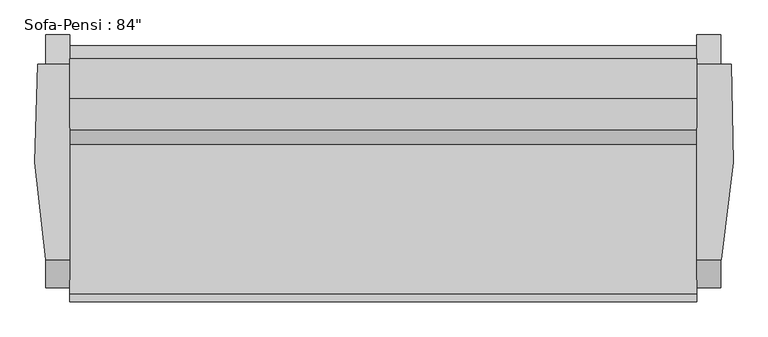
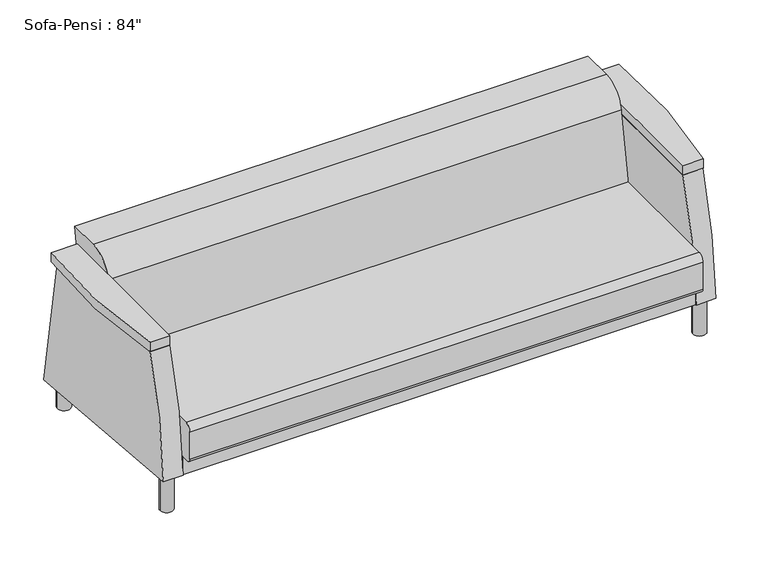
"""IFC4 building model written with IfcOpenShell, lengths in millimetres: furniture geometry."""

from ifc_helpers import new_model, si_unit, point, frame, frame_2d, origin, origin_with_axes, place, context, project, spatial, polyline, circle_curve, trimmed, segment, composite_curve, outline, extrude, source, transform, mapped, element, save


def furniture_fb1f61f5(model_context):
    return source(origin(), model_context, "Body", "SweptSolid", [
        extrude(outline(composite_curve([segment(trimmed(circle_curve(frame_2d((-750.09375, -53.0901639)), 25.4), [point((-775.49375, -53.0901639))], [point((-724.69375, -53.0901639))], False, "CARTESIAN"), True, "CONTINUOUS"), segment(trimmed(circle_curve(frame_2d((-750.09375, -53.0901639)), 25.4), [point((-724.69375, -53.0901639))], [point((-775.49375, -53.0901639))], False, "CARTESIAN"), True, "CONTINUOUS")], self_intersect=False)), origin_with_axes(), (0.0, 0.0, 1.0), 148.43125),
        extrude(outline(composite_curve([segment(trimmed(circle_curve(frame_2d((-750.09375, 632.7098361)), 25.4), [point((-775.49375, 632.7098361))], [point((-724.69375, 632.7098361))], False, "CARTESIAN"), True, "CONTINUOUS"), segment(trimmed(circle_curve(frame_2d((-750.09375, 632.7098361)), 25.4), [point((-724.69375, 632.7098361))], [point((-775.49375, 632.7098361))], False, "CARTESIAN"), True, "CONTINUOUS")], self_intersect=False)), origin_with_axes(), (0.0, 0.0, 1.0), 148.43125),
        extrude(outline(composite_curve([segment(trimmed(circle_curve(frame_2d((1307.30625, 632.7098361)), 25.4), [point((1281.90625, 632.7098361))], [point((1332.70625, 632.7098361))], False, "CARTESIAN"), True, "CONTINUOUS"), segment(trimmed(circle_curve(frame_2d((1307.30625, 632.7098361)), 25.4), [point((1332.70625, 632.7098361))], [point((1281.90625, 632.7098361))], False, "CARTESIAN"), True, "CONTINUOUS")], self_intersect=False)), origin_with_axes(), (0.0, 0.0, 1.0), 148.43125),
        extrude(outline(composite_curve([segment(trimmed(circle_curve(frame_2d((1307.30625, -53.0901639)), 25.4), [point((1281.90625, -53.0901639))], [point((1332.70625, -53.0901639))], False, "CARTESIAN"), True, "CONTINUOUS"), segment(trimmed(circle_curve(frame_2d((1307.30625, -53.0901639)), 25.4), [point((1332.70625, -53.0901639))], [point((1281.90625, -53.0901639))], False, "CARTESIAN"), True, "CONTINUOUS")], self_intersect=False)), origin_with_axes(), (0.0, 0.0, 1.0), 148.43125),
        extrude(outline(polyline([(1269.20625, 668.3047863), (1269.20625, -93.6952137), (-711.99375, -93.6952137), (-711.99375, 668.3047863), (1269.20625, 668.3047863)])), frame((0.0, 0.0, 148.0509954), z_axis=(0.0, 0.0, 1.0), x_axis=(1.0, 0.0, 0.0)), (0.0, 0.0, 1.0), 76.2),
        extrude(outline(composite_curve([segment(polyline([(-9.3943348, 626.0203985), (608.6917937, 626.0203985), (701.7619204, 79.3588346), (-97.7900405, 149.3105671)]), True, "CONTINUOUS"), segment(trimmed(circle_curve(frame_2d((1499.9783711, 99.5888442)), 1598.5418814), [point((-97.7900405, 149.3105671))], [point((-9.3943348, 626.0203985))], False, "CARTESIAN"), True, "CONTINUOUS")], self_intersect=False)), frame((-788.19375, 0.0, 0.0), z_axis=(1.0, 0.0, 0.0), x_axis=(0.0, 1.0, 0.0)), (0.0, 0.0, 1.0), 76.2),
        extrude(outline(composite_curve([segment(polyline([(701.7619204, 79.3588346), (-97.7900405, 149.3105671)]), True, "CONTINUOUS"), segment(trimmed(circle_curve(frame_2d((1499.9783711, 99.5888442)), 1598.5418814), [point((-97.7900405, 149.3105671))], [point((-9.3943348, 626.0203985))], False, "CARTESIAN"), True, "CONTINUOUS"), segment(polyline([(-9.3943348, 626.0203985), (608.6917937, 626.0203985), (701.7619204, 79.3588346)]), True, "CONTINUOUS")], self_intersect=False)), frame((1269.20625, 0.0, 0.0), z_axis=(1.0, 0.0, 0.0), x_axis=(0.0, 1.0, 0.0)), (0.0, 0.0, 1.0), 76.2),
        extrude(outline(composite_curve([segment(trimmed(circle_curve(frame_2d((-116.5901639, 351.2509954)), 25.4), [point((-141.9901639, 351.2509954))], [point((-116.5901639, 376.6509954))], False, "CARTESIAN"), True, "CONTINUOUS"), segment(polyline([(-116.5901639, 376.6509954), (355.3895541, 376.6509954), (402.1988177, 642.1195211)]), True, "CONTINUOUS"), segment(trimmed(circle_curve(frame_2d((502.2552854, 624.4768662)), 101.6), [point((402.1988177, 642.1195211))], [point((502.2552854, 726.0768662))], False, "CARTESIAN"), True, "CONTINUOUS"), segment(polyline([(502.2552854, 726.0768662), (626.3344485, 726.0768662), (609.5377828, 620.1719187), (667.6541767, 224.2509954), (-126.1151639, 224.2509954)]), True, "CONTINUOUS"), segment(trimmed(circle_curve(frame_2d((-126.1151639, 240.1259954)), 15.875), [point((-126.1151639, 224.2509954))], [point((-141.9901639, 240.1259954))], False, "CARTESIAN"), True, "CONTINUOUS"), segment(polyline([(-141.9901639, 240.1259954), (-141.9901639, 351.2509954)]), True, "CONTINUOUS")], self_intersect=False)), frame((-711.99375, 0.0, 0.0), z_axis=(1.0, 0.0, 0.0), x_axis=(0.0, 1.0, 0.0)), (0.0, 0.0, 1.0), 1981.2),
        extrude(outline(composite_curve([segment(polyline([(-711.99375, -9.3943348), (-788.19375, -9.3943348)]), True, "CONTINUOUS"), segment(trimmed(circle_curve(frame_2d((1379.5527561, 389.2532985)), 2204.0972869), [point((-788.19375, -9.3943348))], [point((-813.59375, 608.6917935))], False, "CARTESIAN"), True, "CONTINUOUS"), segment(polyline([(-813.59375, 608.6917935), (-711.99375, 608.6917935), (-711.99375, -9.3943348)]), True, "CONTINUOUS")], self_intersect=False)), frame((0.0, 0.0, 626.0203985), z_axis=(0.0, 0.0, 1.0), x_axis=(1.0, 0.0, 0.0)), (0.0, 0.0, 1.0), 38.1),
        extrude(outline(composite_curve([segment(polyline([(1269.20625, -9.3943348), (1269.20625, 608.9395268), (1377.8864453, 608.9395268)]), True, "CONTINUOUS"), segment(trimmed(circle_curve(frame_2d((-821.3771494, 407.0073811)), 2208.514648), [point((1377.8864453, 608.9395268))], [point((1347.5273117, -9.3943348))], False, "CARTESIAN"), True, "CONTINUOUS"), segment(polyline([(1347.5273117, -9.3943348), (1269.20625, -9.3943348)]), True, "CONTINUOUS")], self_intersect=False)), frame((0.0, 0.0, 626.0203985), z_axis=(0.0, 0.0, 1.0), x_axis=(1.0, 0.0, 0.0)), (0.0, 0.0, 1.0), 38.1),
    ])


if __name__ == "__main__":
    model = new_model("IFC4")
    model_context = context("Model", 3, world=origin())
    ifc_project = project(units=[si_unit("LENGTHUNIT", "METRE", prefix="MILLI")], contexts=[model_context])
    site = spatial("IfcSite", under=ifc_project)
    building = spatial("IfcBuilding", under=site)
    placement = place(None, origin())
    furniture_shape = furniture_fb1f61f5(model_context)
    element("IfcFurniture", 1, ObjectType="Sofa-Pensi : 84\"", at=placement, inside=building, context=model_context, shape_type="MappedRepresentation", body=[
        mapped(furniture_shape, transform((0.0, 0.0, 0.0), x_axis=(1.0, 0.0, 0.0), y_axis=(0.0, 1.0, 0.0), z_axis=(0.0, 0.0, 1.0))),
    ])
    save(model, "model.ifc")
